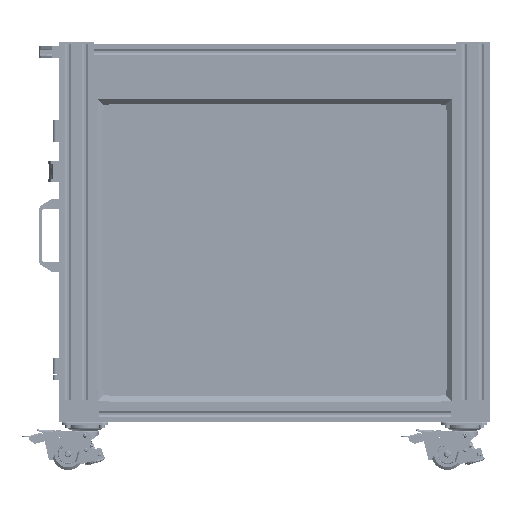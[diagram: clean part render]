
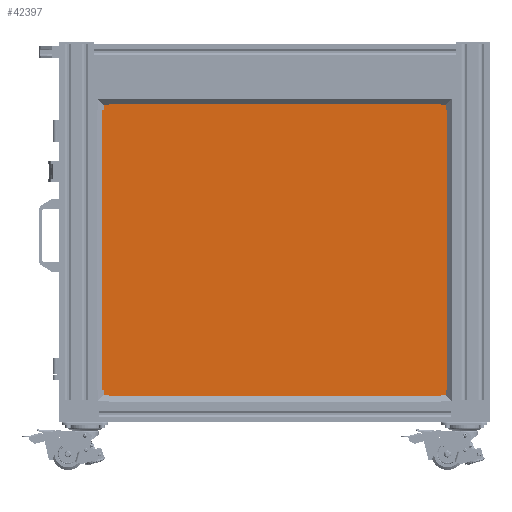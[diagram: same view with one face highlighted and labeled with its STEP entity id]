
A CAD part, front view. The second image highlights one B-rep face of the part: STEP entity #42397.
In plain terms, the highlighted planar face has unit normal (0, -1, 0) as drawn and (0, 0, -1) by its records, which use the part's own axes.
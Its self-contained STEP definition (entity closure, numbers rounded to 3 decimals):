
#42397=ADVANCED_FACE('',(#83761),#83762,.F.);
#83761=FACE_OUTER_BOUND('',#160491,.T.);
#83762=PLANE('',#160492);
#160491=EDGE_LOOP('',(#256637,#256638,#256639,#256640));
#160492=AXIS2_PLACEMENT_3D('',#256641,#256642,#256643);
#256637=ORIENTED_EDGE('',*,*,#324317,.F.);
#256638=ORIENTED_EDGE('',*,*,#324305,.F.);
#256639=ORIENTED_EDGE('',*,*,#324310,.F.);
#256640=ORIENTED_EDGE('',*,*,#324314,.F.);
#256641=CARTESIAN_POINT('',(241.071,277.195,0.));
#256642=DIRECTION('',(0.0,0.0,1.0));
#256643=DIRECTION('',(1.0,0.0,0.0));
#324305=EDGE_CURVE('',#383052,#383054,#383055,.T.);
#324310=EDGE_CURVE('',#383060,#383052,#383062,.T.);
#324314=EDGE_CURVE('',#383066,#383060,#383068,.T.);
#324317=EDGE_CURVE('',#383054,#383066,#383071,.T.);
#383052=VERTEX_POINT('',#525115);
#383054=VERTEX_POINT('',#525118);
#383055=LINE('',#525119,#525120);
#383060=VERTEX_POINT('',#525127);
#383062=LINE('',#525130,#525131);
#383066=VERTEX_POINT('',#525136);
#383068=LINE('',#525139,#525140);
#383071=LINE('',#525144,#525145);
#525115=CARTESIAN_POINT('',(-176.429,633.891,0.));
#525118=CARTESIAN_POINT('',(-176.429,-79.5,0.));
#525119=CARTESIAN_POINT('',(-176.429,633.891,0.));
#525120=VECTOR('',#580408,1.0);
#525127=CARTESIAN_POINT('',(658.571,633.891,0.));
#525130=CARTESIAN_POINT('',(658.571,633.891,0.));
#525131=VECTOR('',#580412,1.0);
#525136=CARTESIAN_POINT('',(658.571,-79.5,0.));
#525139=CARTESIAN_POINT('',(658.571,-79.5,0.));
#525140=VECTOR('',#580415,1.0);
#525144=CARTESIAN_POINT('',(-176.429,-79.5,0.));
#525145=VECTOR('',#580417,1.0);
#580408=DIRECTION('',(0.0,-1.0,0.0));
#580412=DIRECTION('',(-1.0,0.0,0.0));
#580415=DIRECTION('',(0.0,1.0,0.0));
#580417=DIRECTION('',(1.0,0.0,0.0));
